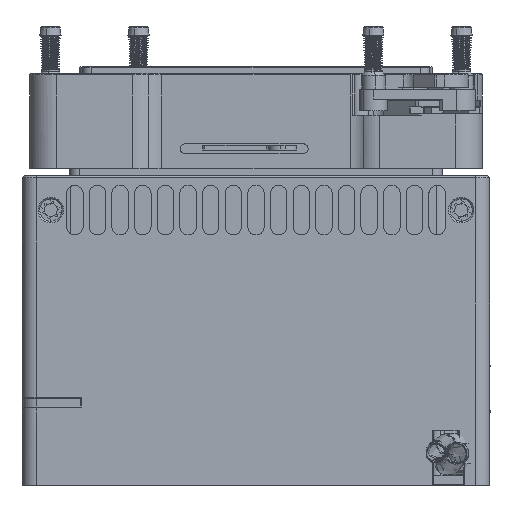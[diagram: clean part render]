
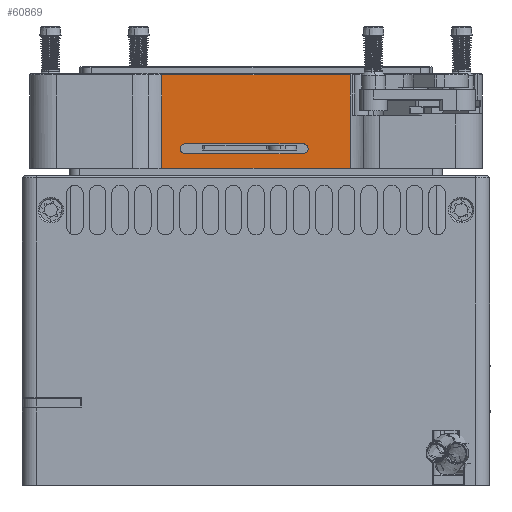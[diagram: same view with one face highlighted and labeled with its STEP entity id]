
A CAD part, left-side view. The second image highlights one B-rep face of the part: STEP entity #60869.
In plain terms, the highlighted planar face has unit normal (-1, 0, 0).
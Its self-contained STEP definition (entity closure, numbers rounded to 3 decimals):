
#238 = CARTESIAN_POINT ( 'NONE',  ( -66.2, -10.533, 70.433 ) ) ;
#4165 = EDGE_CURVE ( 'NONE', #70729, #5272, #80916, .T. ) ;
#4303 = CARTESIAN_POINT ( 'NONE',  ( -66.2, -10.002, 72.4 ) ) ;
#5272 = VERTEX_POINT ( 'NONE', #52644 ) ;
#6037 = CARTESIAN_POINT ( 'NONE',  ( -66.2, -20.002, 87. ) ) ;
#7717 = B_SPLINE_CURVE_WITH_KNOTS ( 'NONE', 3,
 ( #38896, #31901, #106995, #70708 ),
 .UNSPECIFIED., .F., .F.,
 ( 4, 4 ),
 ( 0., 1. ),
 .UNSPECIFIED. ) ;
#8385 = CARTESIAN_POINT ( 'NONE',  ( -66.2, 19.998, 73.8 ) ) ;
#8539 = CARTESIAN_POINT ( 'NONE',  ( -66.2, -11.052, 71.49 ) ) ;
#9777 = CARTESIAN_POINT ( 'NONE',  ( -66.2, -11.052, 71.21 ) ) ;
#11031 = CARTESIAN_POINT ( 'NONE',  ( -66.2, 15.137, 72.4 ) ) ;
#11169 = EDGE_CURVE ( 'NONE', #71614, #41585, #7717, .T. ) ;
#12272 = CARTESIAN_POINT ( 'NONE',  ( -66.2, 16.021, 71.623 ) ) ;
#12493 = EDGE_LOOP ( 'NONE', ( #76390, #111335, #28566, #45046 ) ) ;
#12890 = CARTESIAN_POINT ( 'NONE',  ( -66.2, 15.642, 72.191 ) ) ;
#13236 = CARTESIAN_POINT ( 'NONE',  ( -66.2, -20.002, 67.2 ) ) ;
#13980 = CARTESIAN_POINT ( 'NONE',  ( -66.2, 6.665, 67.2 ) ) ;
#14469 = DIRECTION ( 'NONE',  ( 1., 0., 0. ) ) ;
#17456 = CARTESIAN_POINT ( 'NONE',  ( -66.2, -10.919, 71.881 ) ) ;
#17678 = CARTESIAN_POINT ( 'NONE',  ( -66.2, 14.998, 72.4 ) ) ;
#18089 = CARTESIAN_POINT ( 'NONE',  ( -66.2, -11.026, 71.077 ) ) ;
#18718 = CARTESIAN_POINT ( 'NONE',  ( -66.2, -10.002, 72.4 ) ) ;
#21844 = CARTESIAN_POINT ( 'NONE',  ( -66.2, 15.271, 70.326 ) ) ;
#22474 = CARTESIAN_POINT ( 'NONE',  ( -66.2, 16.048, 71.21 ) ) ;
#26023 = CARTESIAN_POINT ( 'NONE',  ( -66.2, -20.002, 87. ) ) ;
#26860 = B_SPLINE_CURVE_WITH_KNOTS ( 'NONE', 3,
 ( #61905, #70835, #21844, #42192, #99482, #100728, #42796, #81593, #22474, #61275, #12272, #100102, #80986, #12890, #90553, #119814, #11031, #51127 ),
 .UNSPECIFIED., .F., .F.,
 ( 4, 2, 2, 2, 2, 2, 2, 2, 4 ),
 ( 0., 0.125, 0.25, 0.375, 0.5, 0.625, 0.75, 0.875, 1. ),
 .UNSPECIFIED. ) ;
#28566 = ORIENTED_EDGE ( 'NONE', *, *, #11169, .F. ) ;
#28888 = CARTESIAN_POINT ( 'NONE',  ( -66.2, -10.275, 70.327 ) ) ;
#29114 = CARTESIAN_POINT ( 'NONE',  ( -66.2, -10.002, 72.4 ) ) ;
#29191 = B_SPLINE_CURVE_WITH_KNOTS ( 'NONE', 3,
 ( #18718, #85530, #77232, #37818, #116070, #104633, #17456, #105268, #8539, #9777, #18089, #75974, #48614, #125013, #238, #28888, #115440, #67706 ),
 .UNSPECIFIED., .F., .F.,
 ( 4, 2, 2, 2, 2, 2, 2, 2, 4 ),
 ( 0., 0.125, 0.25, 0.375, 0.5, 0.625, 0.75, 0.875, 1. ),
 .UNSPECIFIED. ) ;
#30245 = CARTESIAN_POINT ( 'NONE',  ( -66.2, 19.998, 67.2 ) ) ;
#31901 = CARTESIAN_POINT ( 'NONE',  ( -66.2, -20.002, 80.4 ) ) ;
#33094 = CARTESIAN_POINT ( 'NONE',  ( -66.2, -20.002, 67.2 ) ) ;
#36778 = CARTESIAN_POINT ( 'NONE',  ( -66.2, -1.669, 72.4 ) ) ;
#37818 = CARTESIAN_POINT ( 'NONE',  ( -66.2, -10.533, 72.267 ) ) ;
#38896 = CARTESIAN_POINT ( 'NONE',  ( -66.2, -20.002, 87. ) ) ;
#41282 = FACE_OUTER_BOUND ( 'NONE', #12493, .T. ) ;
#41423 = CARTESIAN_POINT ( 'NONE',  ( -66.2, 19.998, 67.2 ) ) ;
#41585 = VERTEX_POINT ( 'NONE', #76987 ) ;
#41804 = ORIENTED_EDGE ( 'NONE', *, *, #60175, .T. ) ;
#42192 = CARTESIAN_POINT ( 'NONE',  ( -66.2, 15.529, 70.433 ) ) ;
#42796 = CARTESIAN_POINT ( 'NONE',  ( -66.2, 15.915, 70.819 ) ) ;
#45046 = ORIENTED_EDGE ( 'NONE', *, *, #47247, .F. ) ;
#45313 = CARTESIAN_POINT ( 'NONE',  ( -66.2, 19.998, 87. ) ) ;
#47247 = EDGE_CURVE ( 'NONE', #5272, #71614, #112165, .T. ) ;
#48614 = CARTESIAN_POINT ( 'NONE',  ( -66.2, -10.843, 70.706 ) ) ;
#49964 = CARTESIAN_POINT ( 'NONE',  ( -66.2, 14.998, 70.3 ) ) ;
#51127 = CARTESIAN_POINT ( 'NONE',  ( -66.2, 14.998, 72.4 ) ) ;
#52644 = CARTESIAN_POINT ( 'NONE',  ( -66.2, 19.998, 87. ) ) ;
#52715 = FACE_BOUND ( 'NONE', #103913, .T. ) ;
#59204 = EDGE_CURVE ( 'NONE', #41585, #70729, #78123, .T. ) ;
#59998 = CARTESIAN_POINT ( 'NONE',  ( -66.2, -1.669, 70.3 ) ) ;
#60175 = EDGE_CURVE ( 'NONE', #113724, #111421, #29191, .T. ) ;
#60869 = ADVANCED_FACE ( 'NONE', ( #41282, #52715 ), #62851, .F. ) ;
#61275 = CARTESIAN_POINT ( 'NONE',  ( -66.2, 16.048, 71.49 ) ) ;
#61905 = CARTESIAN_POINT ( 'NONE',  ( -66.2, 14.998, 70.3 ) ) ;
#62851 = PLANE ( 'NONE',  #105894 ) ;
#64664 = VERTEX_POINT ( 'NONE', #49964 ) ;
#66714 = CARTESIAN_POINT ( 'NONE',  ( -66.2, -6.669, 87. ) ) ;
#67099 = ORIENTED_EDGE ( 'NONE', *, *, #67298, .T. ) ;
#67298 = EDGE_CURVE ( 'NONE', #111421, #64664, #70546, .T. ) ;
#67706 = CARTESIAN_POINT ( 'NONE',  ( -66.2, -10.002, 70.3 ) ) ;
#70546 = B_SPLINE_CURVE_WITH_KNOTS ( 'NONE', 3,
 ( #100692, #59998, #118536, #110844 ),
 .UNSPECIFIED., .F., .F.,
 ( 4, 4 ),
 ( 0., 1. ),
 .UNSPECIFIED. ) ;
#70708 = CARTESIAN_POINT ( 'NONE',  ( -66.2, -20.002, 67.2 ) ) ;
#70729 = VERTEX_POINT ( 'NONE', #30245 ) ;
#70835 = CARTESIAN_POINT ( 'NONE',  ( -66.2, 15.137, 70.3 ) ) ;
#71614 = VERTEX_POINT ( 'NONE', #6037 ) ;
#71914 = CARTESIAN_POINT ( 'NONE',  ( -66.2, -6.669, 67.2 ) ) ;
#73738 = ORIENTED_EDGE ( 'NONE', *, *, #119285, .T. ) ;
#75974 = CARTESIAN_POINT ( 'NONE',  ( -66.2, -10.919, 70.819 ) ) ;
#76390 = ORIENTED_EDGE ( 'NONE', *, *, #4165, .F. ) ;
#76578 = EDGE_CURVE ( 'NONE', #64664, #80841, #26860, .T. ) ;
#76987 = CARTESIAN_POINT ( 'NONE',  ( -66.2, -20.002, 67.2 ) ) ;
#77232 = CARTESIAN_POINT ( 'NONE',  ( -66.2, -10.275, 72.374 ) ) ;
#78123 = B_SPLINE_CURVE_WITH_KNOTS ( 'NONE', 3,
 ( #33094, #71914, #13980, #41423 ),
 .UNSPECIFIED., .F., .F.,
 ( 4, 4 ),
 ( 0., 1. ),
 .UNSPECIFIED. ) ;
#80841 = VERTEX_POINT ( 'NONE', #84274 ) ;
#80916 = B_SPLINE_CURVE_WITH_KNOTS ( 'NONE', 3,
 ( #114658, #8385, #83478, #45313 ),
 .UNSPECIFIED., .F., .F.,
 ( 4, 4 ),
 ( 0., 1. ),
 .UNSPECIFIED. ) ;
#80986 = CARTESIAN_POINT ( 'NONE',  ( -66.2, 15.839, 71.994 ) ) ;
#81593 = CARTESIAN_POINT ( 'NONE',  ( -66.2, 16.021, 71.077 ) ) ;
#83478 = CARTESIAN_POINT ( 'NONE',  ( -66.2, 19.998, 80.4 ) ) ;
#84274 = CARTESIAN_POINT ( 'NONE',  ( -66.2, 14.998, 72.4 ) ) ;
#85530 = CARTESIAN_POINT ( 'NONE',  ( -66.2, -10.142, 72.4 ) ) ;
#88400 = ORIENTED_EDGE ( 'NONE', *, *, #76578, .T. ) ;
#90553 = CARTESIAN_POINT ( 'NONE',  ( -66.2, 15.529, 72.267 ) ) ;
#93851 = B_SPLINE_CURVE_WITH_KNOTS ( 'NONE', 3,
 ( #17678, #97201, #36778, #29114 ),
 .UNSPECIFIED., .F., .F.,
 ( 4, 4 ),
 ( 0., 1. ),
 .UNSPECIFIED. ) ;
#94129 = CARTESIAN_POINT ( 'NONE',  ( -66.2, 6.665, 87. ) ) ;
#97201 = CARTESIAN_POINT ( 'NONE',  ( -66.2, 6.665, 72.4 ) ) ;
#99482 = CARTESIAN_POINT ( 'NONE',  ( -66.2, 15.642, 70.509 ) ) ;
#100102 = CARTESIAN_POINT ( 'NONE',  ( -66.2, 15.914, 71.881 ) ) ;
#100692 = CARTESIAN_POINT ( 'NONE',  ( -66.2, -10.002, 70.3 ) ) ;
#100728 = CARTESIAN_POINT ( 'NONE',  ( -66.2, 15.839, 70.706 ) ) ;
#103913 = EDGE_LOOP ( 'NONE', ( #67099, #88400, #73738, #41804 ) ) ;
#104527 = CARTESIAN_POINT ( 'NONE',  ( -66.2, -10.002, 70.3 ) ) ;
#104633 = CARTESIAN_POINT ( 'NONE',  ( -66.2, -10.843, 71.994 ) ) ;
#105268 = CARTESIAN_POINT ( 'NONE',  ( -66.2, -11.026, 71.623 ) ) ;
#105894 = AXIS2_PLACEMENT_3D ( 'NONE', #13236, #14469, #111831 ) ;
#106995 = CARTESIAN_POINT ( 'NONE',  ( -66.2, -20.002, 73.8 ) ) ;
#110844 = CARTESIAN_POINT ( 'NONE',  ( -66.2, 14.998, 70.3 ) ) ;
#111335 = ORIENTED_EDGE ( 'NONE', *, *, #59204, .F. ) ;
#111421 = VERTEX_POINT ( 'NONE', #104527 ) ;
#111831 = DIRECTION ( 'NONE',  ( 0., 0., -1. ) ) ;
#112165 = B_SPLINE_CURVE_WITH_KNOTS ( 'NONE', 3,
 ( #123374, #94129, #66714, #26023 ),
 .UNSPECIFIED., .F., .F.,
 ( 4, 4 ),
 ( 0., 1. ),
 .UNSPECIFIED. ) ;
#113724 = VERTEX_POINT ( 'NONE', #4303 ) ;
#114658 = CARTESIAN_POINT ( 'NONE',  ( -66.2, 19.998, 67.2 ) ) ;
#115440 = CARTESIAN_POINT ( 'NONE',  ( -66.2, -10.141, 70.3 ) ) ;
#116070 = CARTESIAN_POINT ( 'NONE',  ( -66.2, -10.646, 72.191 ) ) ;
#118536 = CARTESIAN_POINT ( 'NONE',  ( -66.2, 6.665, 70.3 ) ) ;
#119285 = EDGE_CURVE ( 'NONE', #80841, #113724, #93851, .T. ) ;
#119814 = CARTESIAN_POINT ( 'NONE',  ( -66.2, 15.271, 72.373 ) ) ;
#123374 = CARTESIAN_POINT ( 'NONE',  ( -66.2, 19.998, 87. ) ) ;
#125013 = CARTESIAN_POINT ( 'NONE',  ( -66.2, -10.646, 70.509 ) ) ;
